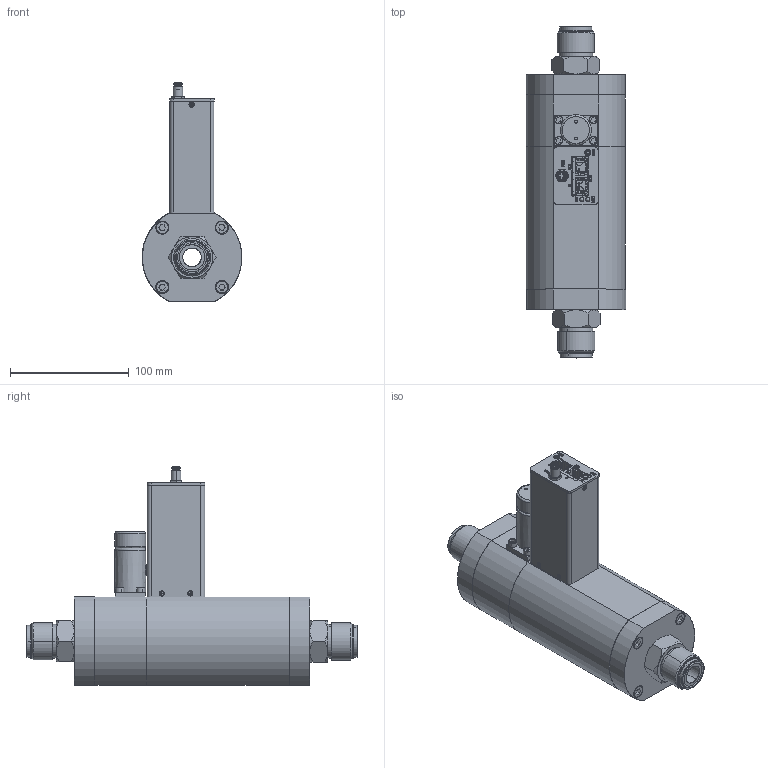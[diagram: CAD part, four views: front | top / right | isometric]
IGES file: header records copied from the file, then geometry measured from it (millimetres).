
Start section: SolidWorks IGES file using analytic representation for surfaces
Global section: file name: G:\Engineering\CAD MODELS FOR SALES\CAD MODEL STORAGE\SLA\SLA5853\IGES\SLA5853-E-2T-2-A-REVB.IGS; native system: SolidWorks 2017; preprocessor: SolidWorks 2017; author: CFehr; date: 171213.074046; units: inch
Bounding box: 84.21 x 280.08 x 185.05 mm (x, y, z)
Surface area: 135850.1 mm2 (no closed solid volume)
Topology: 0 solids, 0 shells, 673 faces, 10266 edges, 10246 vertices
Faces by surface type: bspline 433, revolution 240
